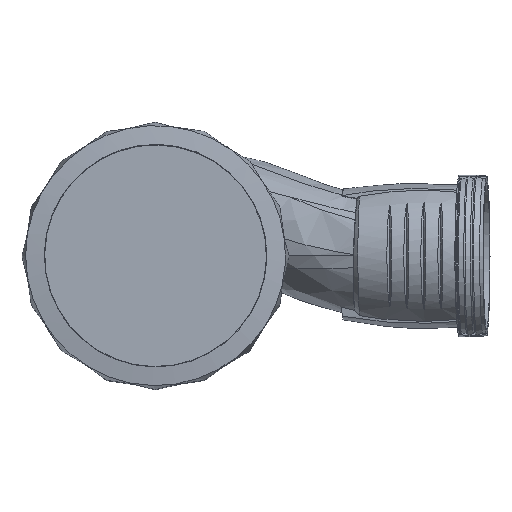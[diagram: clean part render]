
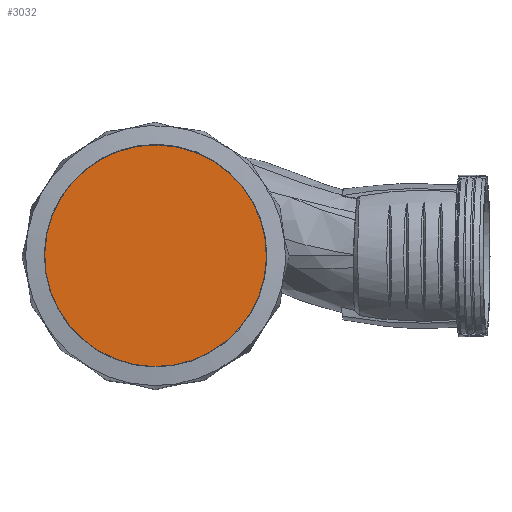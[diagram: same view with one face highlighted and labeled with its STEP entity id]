
A CAD part, top view. The second image highlights one B-rep face of the part: STEP entity #3032.
In plain terms, the highlighted planar face has unit normal (0, 0, 1).
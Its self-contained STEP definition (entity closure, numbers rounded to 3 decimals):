
#19=PLANE('',#3279);
#462=FACE_OUTER_BOUND('',#654,.T.);
#654=EDGE_LOOP('',(#2457));
#1075=CIRCLE('',#3276,45.45);
#1464=VERTEX_POINT('',#16010);
#1842=EDGE_CURVE('',#1464,#1464,#1075,.T.);
#2457=ORIENTED_EDGE('',*,*,#1842,.T.);
#3032=ADVANCED_FACE('',(#462),#19,.T.);
#3276=AXIS2_PLACEMENT_3D('',#16011,#3666,#3667);
#3279=AXIS2_PLACEMENT_3D('',#16158,#3673,#3674);
#3666=DIRECTION('center_axis',(0.,0.,1.));
#3667=DIRECTION('ref_axis',(-0.479,0.878,0.));
#3673=DIRECTION('center_axis',(0.,0.,1.));
#3674=DIRECTION('ref_axis',(1.,0.,0.));
#16010=CARTESIAN_POINT('',(21.79,-39.886,17.));
#16011=CARTESIAN_POINT('Origin',(0.,0.,17.));
#16158=CARTESIAN_POINT('Origin',(0.,0.,17.));
